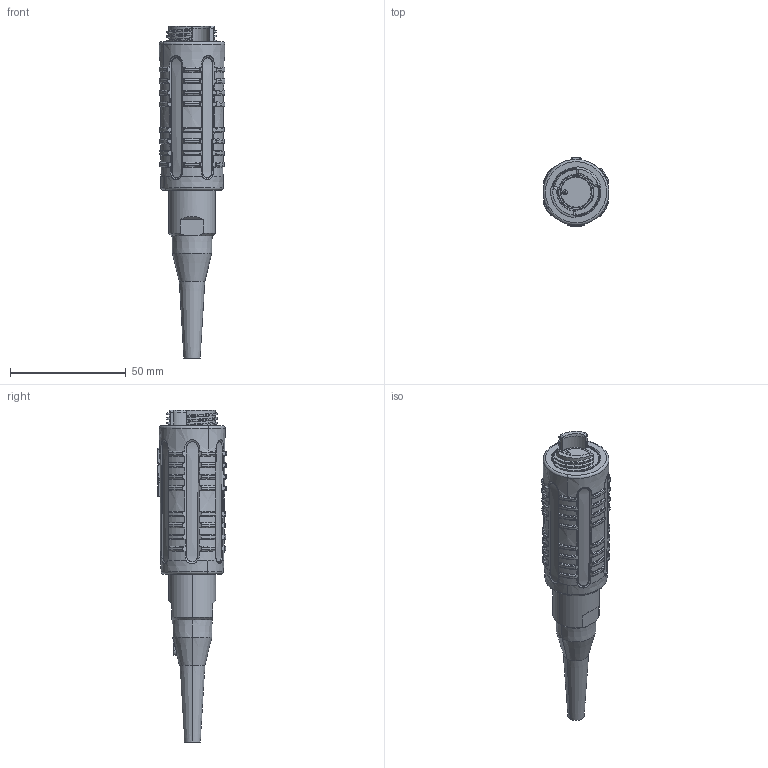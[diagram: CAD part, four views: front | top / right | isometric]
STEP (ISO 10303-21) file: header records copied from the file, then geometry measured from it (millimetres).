
FILE_DESCRIPTION (( 'STEP AP214' ), '1' );
FILE_NAME ('QMINI-PHXX-XXXX-SXX.STEP', '2025-05-20T23:46:27', ( '' ), ( '' ), 'SwSTEP 2.0', 'SolidWorks 2024', '' );
FILE_SCHEMA (( 'AUTOMOTIVE_DESIGN' ));
Length unit declared in the file: inch
Products named in the file (1): QMINI-PHXX-XXXX-SXX
Bounding box: 28.46 x 29.78 x 143.2 mm (x, y, z)
Volume: 48556.8 mm3; surface area: 13642 mm2
Topology: 1 solids, 1 shells, 1048 faces, 2726 edges, 1685 vertices
Faces by surface type: bspline 420, cone 309, torus 117, plane 104, cylinder 90, sphere 8
Entity records: 44164 total; most frequent: CARTESIAN_POINT 22885, ORIENTED_EDGE 5436, DIRECTION 3225, EDGE_CURVE 2718, VERTEX_POINT 1685, AXIS2_PLACEMENT_3D 1440, B_SPLINE_CURVE_WITH_KNOTS 1429, EDGE_LOOP 1067
